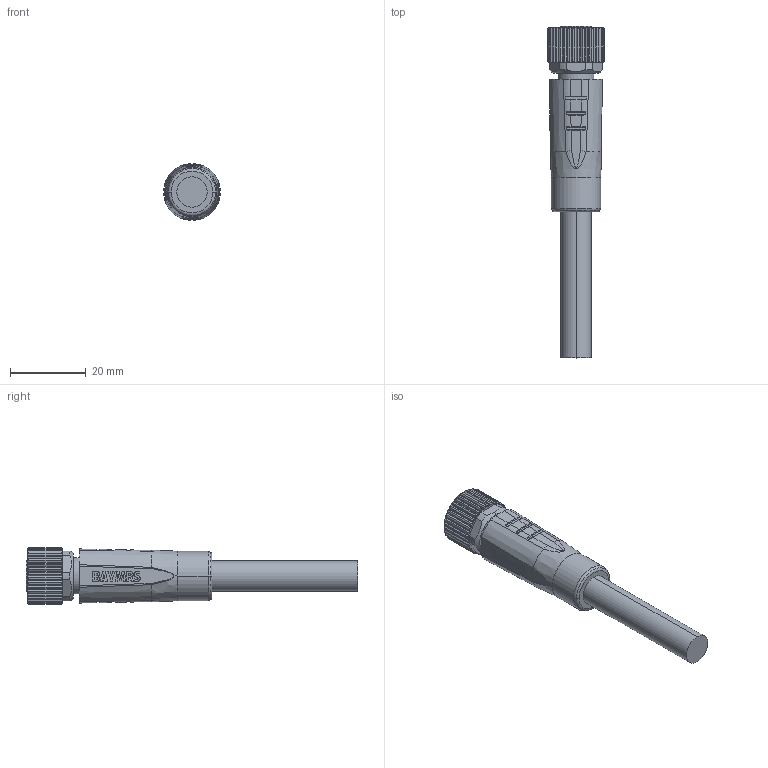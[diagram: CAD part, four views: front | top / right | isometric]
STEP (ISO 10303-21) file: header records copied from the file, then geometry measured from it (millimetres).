
FILE_DESCRIPTION((''),'2;1');
FILE_NAME('PRT0003','2025-05-20T',('lyj'),(''),'PRO/ENGINEER BY PARAMETRIC TECHNOLOGY CORPORATION, 2009360','PRO/ENGINEER BY PARAMETRIC TECHNOLOGY CORPORATION, 2009360','');
FILE_SCHEMA(('CONFIG_CONTROL_DESIGN'));
Length unit declared in the file: millimetre
Products named in the file (1): PRT0003
Bounding box: 14.98 x 87.5 x 14.98 mm (x, y, z)
Volume: 8644.5 mm3; surface area: 5490.6 mm2
Topology: 1 solids, 9 shells, 610 faces, 1701 edges, 1126 vertices
Faces by surface type: plane 225, cylinder 215, cone 119, extrusion 33, bspline 14, torus 4
Entity records: 24112 total; most frequent: CARTESIAN_POINT 8724, ORIENTED_EDGE 3402, DIRECTION 2948, EDGE_CURVE 1701, VERTEX_POINT 1126, AXIS2_PLACEMENT_3D 1073, VECTOR 802, LINE 769
